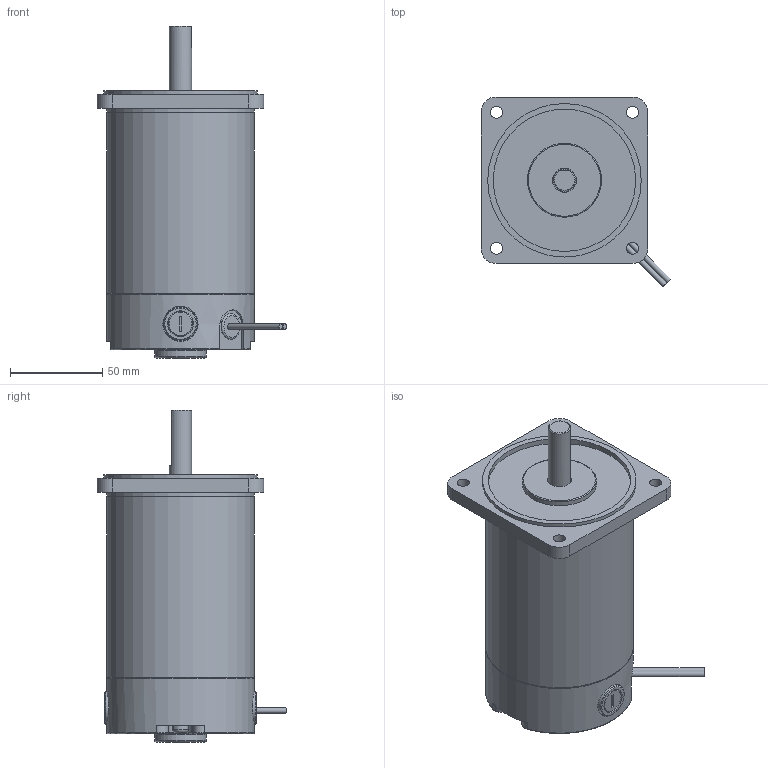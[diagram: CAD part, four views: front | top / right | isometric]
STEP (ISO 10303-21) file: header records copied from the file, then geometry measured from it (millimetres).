
FILE_DESCRIPTION((''),'2;1');
FILE_NAME('C:\Documents and Settings\ycw1227\바탕 화면\S9D60-ㅁD.iam.stp','2013-06-05T10:55:15',('ycw1227'),(''),'Autodesk Inventor 2011','Autodesk Inventor 2011','');
FILE_SCHEMA(('AUTOMOTIVE_DESIGN { 1 0 10303 214 1 1 1 1 }'));
Length unit declared in the file: millimetre
Products named in the file (1): 부품1
Bounding box: 102.45 x 102.45 x 179.5 mm (x, y, z)
Volume: 719986.1 mm3; surface area: 61875.5 mm2
Topology: 1 solids, 3 shells, 165 faces, 386 edges, 251 vertices
Faces by surface type: plane 89, cylinder 46, torus 16, cone 14
Full cylindrical faces by diameter (mm): 3 x2, 5 x2, 6.5 x4, 8.5 x2, 9 x1, 12 x1, 13 x1, 13.5 x2, 14 x3, 18 x2, 19 x2, 28 x1, 40 x1, 77 x1, 80 x3, 83 x1
Entity records: 4788 total; most frequent: CARTESIAN_POINT 973, DIRECTION 775, ORIENTED_EDGE 684, EDGE_CURVE 342, AXIS2_PLACEMENT_3D 308, VERTEX_POINT 246, EDGE_LOOP 237, FACE_OUTER_BOUND 165
